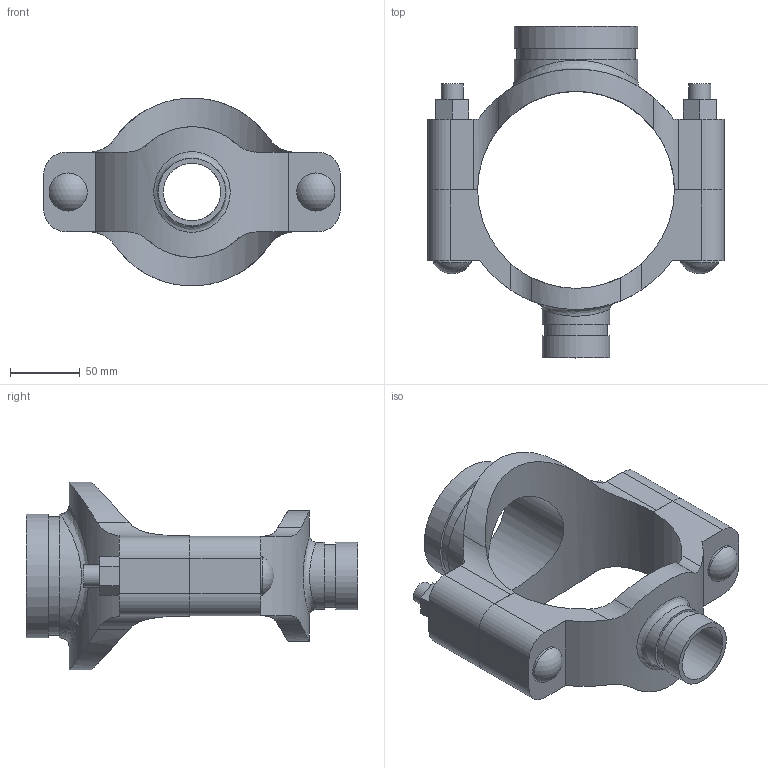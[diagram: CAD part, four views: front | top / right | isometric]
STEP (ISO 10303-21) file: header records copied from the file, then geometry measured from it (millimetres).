
FILE_DESCRIPTION(/* description */ ('VIC MECH-T BRANCH OUTLET CROSS STYLE 920N (GRVD)','CAx-IF Rec.Pracs.---Representation and Presentation of Product Manufacturing Information (PMI)---4.0---2014-10-13'),/* implementation_level */ '2;1');
FILE_NAME(/* name */ 'C:\Users\Vjadhav\AppData\Roaming\Autodesk\ApplicationPlugins\Back Up\Victaulic_IPS_Mechanical-Cross Outlet_Style 920N (OGS)\Victaulic_IPS_Mechanical-Cross Outlet_05.0x03.0x01.5 (125x80x40).stp',/* time_stamp */ '2020-08-06T19:44:27+05:00',/* author */ ('Vjadhav'),/* organization */ ('Victaulic'),/* preprocessor_version */ 'ST-DEVELOPER v17.2',/* originating_system */ 'Autodesk Inventor 2019',/* authorisation */ '');
FILE_SCHEMA (('AP242_MANAGED_MODEL_BASED_3D_ENGINEERING_MIM_LF { 1 0 10303 442 1 1 4 }'));
Length unit declared in the file: inch
Products named in the file (3): 920NG-05.0x03.0x01.5; 920G-05.0x03.0; 920G-05.0x01.5
Assembly tree (2 placements, depth 2):
  920NG-05.0x03.0x01.5
    920G-05.0x03.0
    920G-05.0x01.5
Bounding box: 212.85 x 238.25 x 134.7 mm (x, y, z)
Volume: 831220 mm3; surface area: 165931.4 mm2
Topology: 2 solids, 2 shells, 104 faces, 262 edges, 178 vertices
Faces by surface type: plane 54, cylinder 46, sphere 2, bspline 2
Full cylindrical faces by diameter (mm): 15.875 x4, 27.381 x2, 41.275 x1, 45.085 x1, 48.26 x2, 77.787 x1, 84.938 x1, 88.9 x2
Entity records: 4118 total; most frequent: CARTESIAN_POINT 1345, DIRECTION 532, ORIENTED_EDGE 524, EDGE_CURVE 262, AXIS2_PLACEMENT_3D 193, VERTEX_POINT 178, LINE 146, VECTOR 146
